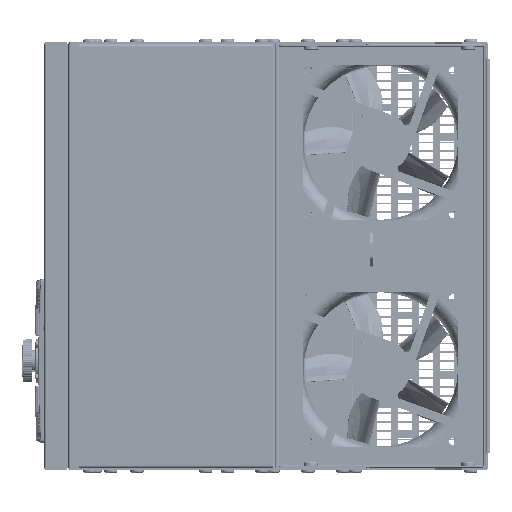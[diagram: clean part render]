
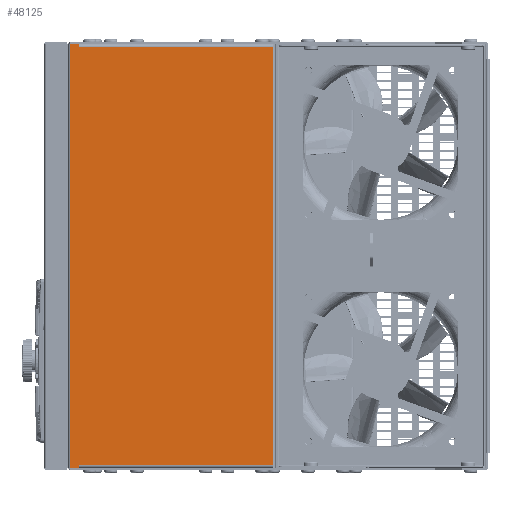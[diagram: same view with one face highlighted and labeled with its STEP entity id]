
A CAD part, front view. The second image highlights one B-rep face of the part: STEP entity #48125.
In plain terms, the highlighted planar face has unit normal (0, -1, 0).
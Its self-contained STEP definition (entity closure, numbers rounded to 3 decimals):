
#42866=DIRECTION('',(0.,0.,1.));
#42867=VECTOR('',#42866,239.2);
#42868=CARTESIAN_POINT('',(-58.7,-192.,-119.6));
#42869=LINE('',#42868,#42867);
#43450=DIRECTION('',(-1.,0.,0.));
#43451=VECTOR('',#43450,110.6);
#43452=CARTESIAN_POINT('',(-58.7,-192.,119.6));
#43453=LINE('',#43452,#43451);
#43532=DIRECTION('',(-1.,0.,0.));
#43533=VECTOR('',#43532,5.);
#43534=CARTESIAN_POINT('',(-169.3,-192.,-121.3));
#43535=LINE('',#43534,#43533);
#43536=DIRECTION('',(1.,0.,0.));
#43537=VECTOR('',#43536,5.);
#43538=CARTESIAN_POINT('',(-174.3,-192.,121.3));
#43539=LINE('',#43538,#43537);
#43540=DIRECTION('',(0.,0.,-1.));
#43541=VECTOR('',#43540,1.7);
#43542=CARTESIAN_POINT('',(-169.3,-192.,121.3));
#43543=LINE('',#43542,#43541);
#43548=DIRECTION('',(1.,0.,0.));
#43549=VECTOR('',#43548,110.6);
#43550=CARTESIAN_POINT('',(-169.3,-192.,-119.6));
#43551=LINE('',#43550,#43549);
#43744=DIRECTION('',(0.,0.,-1.));
#43745=VECTOR('',#43744,242.6);
#43746=CARTESIAN_POINT('',(-174.3,-192.,121.3));
#43747=LINE('',#43746,#43745);
#43770=DIRECTION('',(0.,0.,1.));
#43771=VECTOR('',#43770,1.7);
#43772=CARTESIAN_POINT('',(-169.3,-192.,-121.3));
#43773=LINE('',#43772,#43771);
#46339=CARTESIAN_POINT('',(-58.7,-192.,-119.6));
#46340=VERTEX_POINT('',#46339);
#46341=CARTESIAN_POINT('',(-58.7,-192.,119.6));
#46342=VERTEX_POINT('',#46341);
#46555=CARTESIAN_POINT('',(-169.3,-192.,119.6));
#46556=VERTEX_POINT('',#46555);
#46577=CARTESIAN_POINT('',(-169.3,-192.,121.3));
#46578=VERTEX_POINT('',#46577);
#46581=CARTESIAN_POINT('',(-169.3,-192.,-119.6));
#46582=VERTEX_POINT('',#46581);
#46583=CARTESIAN_POINT('',(-169.3,-192.,-121.3));
#46584=VERTEX_POINT('',#46583);
#46585=CARTESIAN_POINT('',(-174.3,-192.,-121.3));
#46586=VERTEX_POINT('',#46585);
#46587=CARTESIAN_POINT('',(-174.3,-192.,121.3));
#46588=VERTEX_POINT('',#46587);
#48105=CARTESIAN_POINT('',(64.5,-192.,122.5));
#48106=DIRECTION('',(0.,-1.,0.));
#48107=DIRECTION('',(0.,0.,1.));
#48108=AXIS2_PLACEMENT_3D('',#48105,#48106,#48107);
#48109=PLANE('',#48108);
#48111=ORIENTED_EDGE('',*,*,#48110,.F.);
#48113=ORIENTED_EDGE('',*,*,#48112,.F.);
#48115=ORIENTED_EDGE('',*,*,#48114,.T.);
#48117=ORIENTED_EDGE('',*,*,#48116,.F.);
#48119=ORIENTED_EDGE('',*,*,#48118,.T.);
#48120=ORIENTED_EDGE('',*,*,#48095,.T.);
#48121=ORIENTED_EDGE('',*,*,#48000,.F.);
#48122=ORIENTED_EDGE('',*,*,#47315,.F.);
#48123=EDGE_LOOP('',(#48111,#48113,#48115,#48117,#48119,#48120,#48121,#48122));
#48124=FACE_OUTER_BOUND('',#48123,.F.);
#47315=EDGE_CURVE('',#46340,#46342,#42869,.T.);
#48000=EDGE_CURVE('',#46342,#46556,#43453,.T.);
#48095=EDGE_CURVE('',#46578,#46556,#43543,.T.);
#48110=EDGE_CURVE('',#46582,#46340,#43551,.T.);
#48112=EDGE_CURVE('',#46584,#46582,#43773,.T.);
#48114=EDGE_CURVE('',#46584,#46586,#43535,.T.);
#48116=EDGE_CURVE('',#46588,#46586,#43747,.T.);
#48118=EDGE_CURVE('',#46588,#46578,#43539,.T.);
#48125=ADVANCED_FACE('',(#48124),#48109,.T.);
